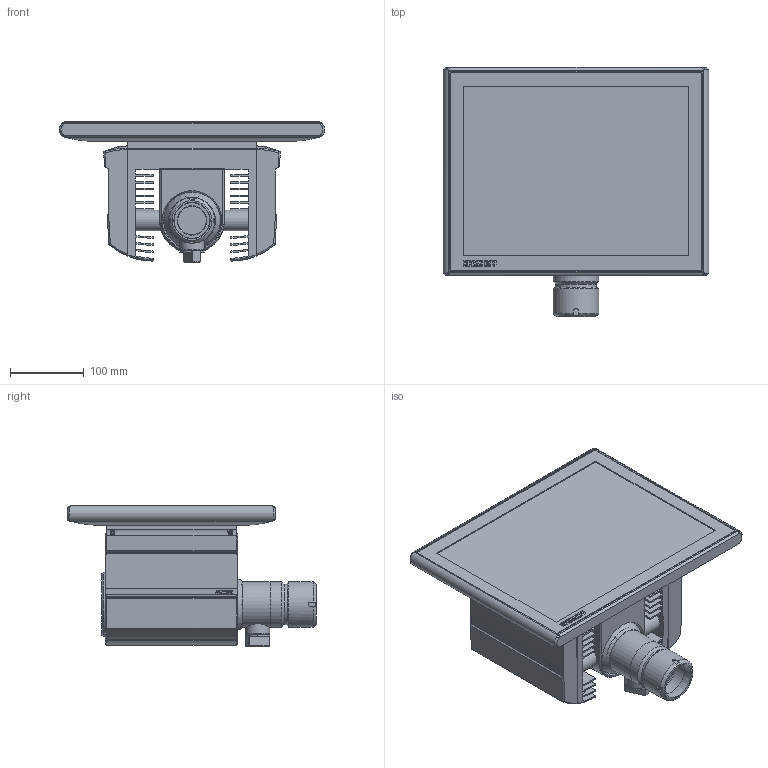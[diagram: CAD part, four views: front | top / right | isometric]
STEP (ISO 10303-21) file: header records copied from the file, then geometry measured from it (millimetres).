
FILE_DESCRIPTION(/* description */ (''),/* implementation_level */ '2;1');
FILE_NAME(/* name */ 'X:\0-inventor\0-3d-Teile\PC-Compo\solids\CP3xxx\0-Ausgabe\CP3215-M184.stp',/* time_stamp */ '2015-10-29T13:00:01+01:00',/* author */ ('christiankreuzer'),/* organization */ ('Design-AG'),/* preprocessor_version */ 'ST-DEVELOPER v16.1',/* originating_system */ 'Autodesk Inventor 2016',/* authorisation */ '');
FILE_SCHEMA (('AUTOMOTIVE_DESIGN { 1 0 10303 214 3 1 1 }'));
Products named in the file (3): CP3215-M184-Vorlage; CP32xx-Haube; CP3215-M184-Vorlage-Step
Assembly tree (2 placements, depth 2):
  CP3215-M184-Vorlage-Step
    CP3215-M184-Vorlage
    CP32xx-Haube
Bounding box: 360.82 x 338.25 x 190.56 mm (x, y, z)
Volume: 6028637.8 mm3; surface area: 835074 mm2
Topology: 6 solids, 12 shells, 2327 faces, 6302 edges, 4126 vertices
Faces by surface type: plane 1366, cylinder 660, cone 120, bspline 119, torus 47, sphere 15
Full cylindrical faces by diameter (mm): 1.03 x12, 1.8 x1, 1.9 x1, 4 x5, 4.2 x1, 4.5 x2, 4.917 x1, 5.4 x1, 5.7 x10, 6 x4, 7.9 x1, 8 x1, 8.5 x4, 8.8 x4, 10 x2, 16 x1, 18.548 x1, 20 x2, 20.4 x1, 21 x1, 21.5 x1, 21.516 x2, 21.7 x1, 22.9 x1, 23 x1, 28 x2, 33 x1, 39 x1, 43 x1, 47 x1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
Entity records: 78421 total; most frequent: CARTESIAN_POINT 19251, ORIENTED_EDGE 12090, DIRECTION 11621, EDGE_CURVE 6045, VERTEX_POINT 4028, LINE 4011, VECTOR 4011, AXIS2_PLACEMENT_3D 3805
